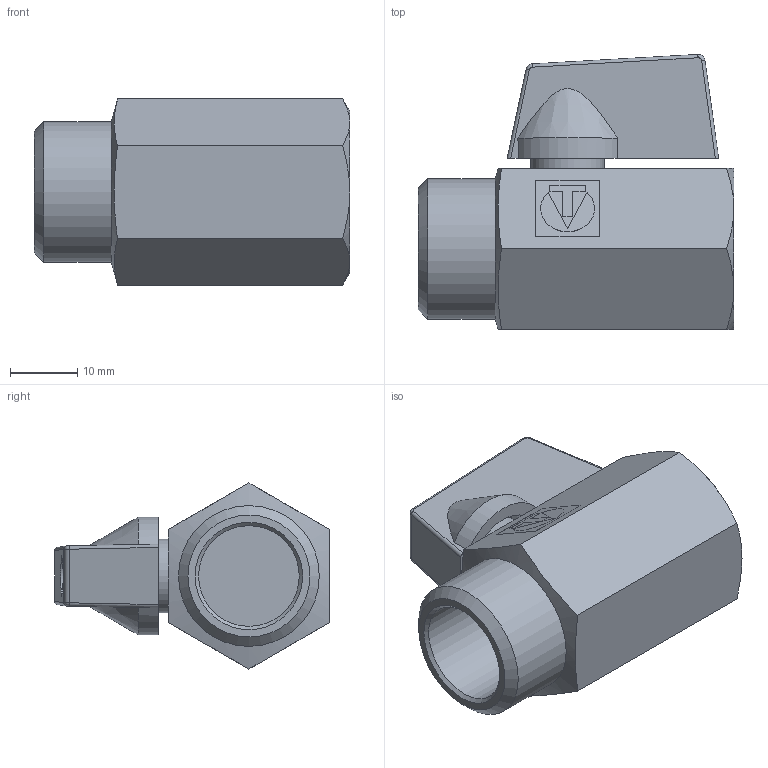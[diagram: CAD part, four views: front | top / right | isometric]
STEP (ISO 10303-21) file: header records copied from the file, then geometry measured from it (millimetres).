
FILE_DESCRIPTION(('STEP AP203'), '1');
FILE_NAME('VT.331.N.04', '', ('UNSPECIFIED'), ('UNSPECIFIED'), 'C3D Converter', 'C3D Toolkit', '');
FILE_SCHEMA(('CONFIG_CONTROL_DESIGN'));
Length unit declared in the file: millimetre
Products named in the file (1): ВР.491816.054.000 СБ
Bounding box: 47 x 40.95 x 27.71 mm (x, y, z)
Volume: 19862 mm3; surface area: 8357.3 mm2
Topology: 1 solids, 3 shells, 117 faces, 275 edges, 176 vertices
Faces by surface type: plane 67, cylinder 30, cone 13, bspline 6, torus 1
Full cylindrical faces by diameter (mm): 4 x1, 4.5 x1, 6 x1, 8 x1, 11 x1, 13.5 x1, 15 x1, 18.632 x1, 20.955 x1
Entity records: 4865 total; most frequent: CARTESIAN_POINT 2332, ORIENTED_EDGE 520, DIRECTION 474, EDGE_CURVE 260, VERTEX_POINT 176, AXIS2_PLACEMENT_3D 168, EDGE_LOOP 144, LINE 138
